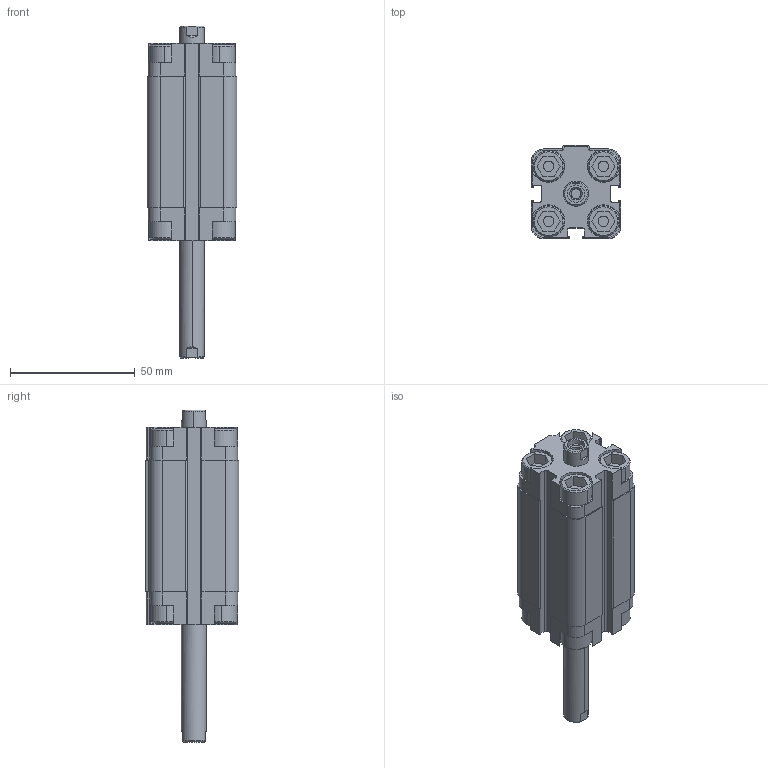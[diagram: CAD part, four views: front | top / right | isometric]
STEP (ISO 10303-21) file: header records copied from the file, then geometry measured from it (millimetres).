
FILE_DESCRIPTION (( 'STEP AP203' ), '1' );
FILE_NAME ('QJ0200040A.step', '2012-10-18T17:14:54', ( '' ), ( '' ), 'SwSTEP 2.0', 'SolidWorks 2012', '' );
FILE_SCHEMA (( 'CONFIG_CONTROL_DESIGN' ));
Length unit declared in the file: millimetre
Products named in the file (1): QJ0200040A
Bounding box: 36 x 37.5 x 133 mm (x, y, z)
Volume: 92196.8 mm3; surface area: 22621.3 mm2
Topology: 1 solids, 1 shells, 333 faces, 876 edges, 577 vertices
Faces by surface type: plane 194, cylinder 110, cone 29
Entity records: 10382 total; most frequent: CARTESIAN_POINT 1853, DIRECTION 1789, ORIENTED_EDGE 1752, EDGE_CURVE 876, AXIS2_PLACEMENT_3D 601, LINE 587, VECTOR 587, VERTEX_POINT 577
